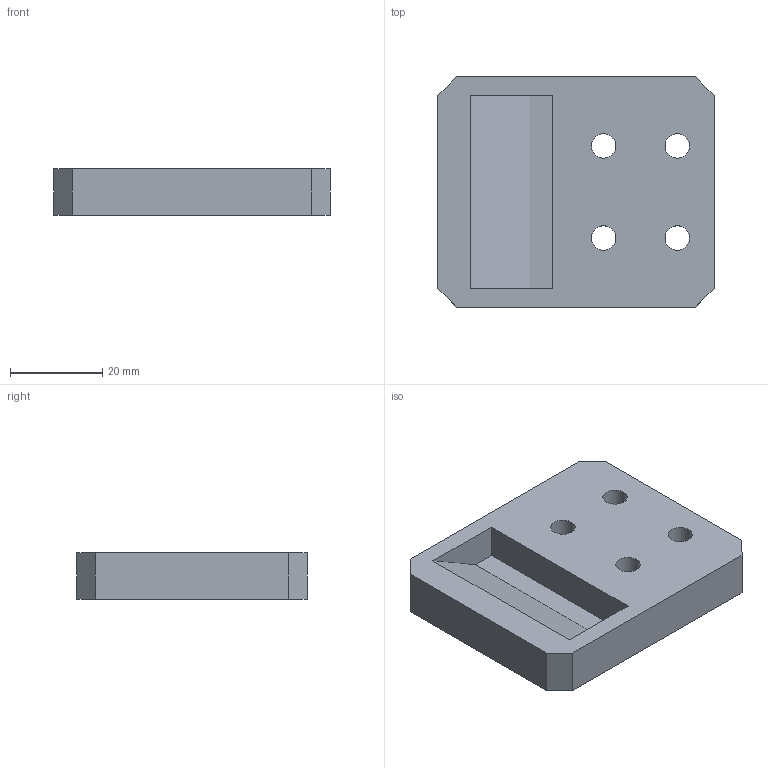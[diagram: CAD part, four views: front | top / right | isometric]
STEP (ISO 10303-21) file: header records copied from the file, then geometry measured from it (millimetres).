
FILE_DESCRIPTION (( 'STEP AP214' ), '1' );
FILE_NAME ('GZ29.12_V1滑动底座.STEP', '2021-07-06T06:59:36', ( '微软中国' ), ( 'Microsoft' ), 'SwSTEP 2.0', 'SolidWorks 2017', '' );
FILE_SCHEMA (( 'AUTOMOTIVE_DESIGN' ));
Length unit declared in the file: millimetre
Products named in the file (1): GZ29.12_V1賑雄菁釱
Bounding box: 60 x 50 x 10 mm (x, y, z)
Volume: 25173.5 mm3; surface area: 9103.8 mm2
Topology: 1 solids, 1 shells, 23 faces, 60 edges, 40 vertices
Faces by surface type: plane 15, cylinder 8
Entity records: 760 total; most frequent: DIRECTION 124, CARTESIAN_POINT 124, ORIENTED_EDGE 120, EDGE_CURVE 60, LINE 44, VECTOR 44, AXIS2_PLACEMENT_3D 40, VERTEX_POINT 40
